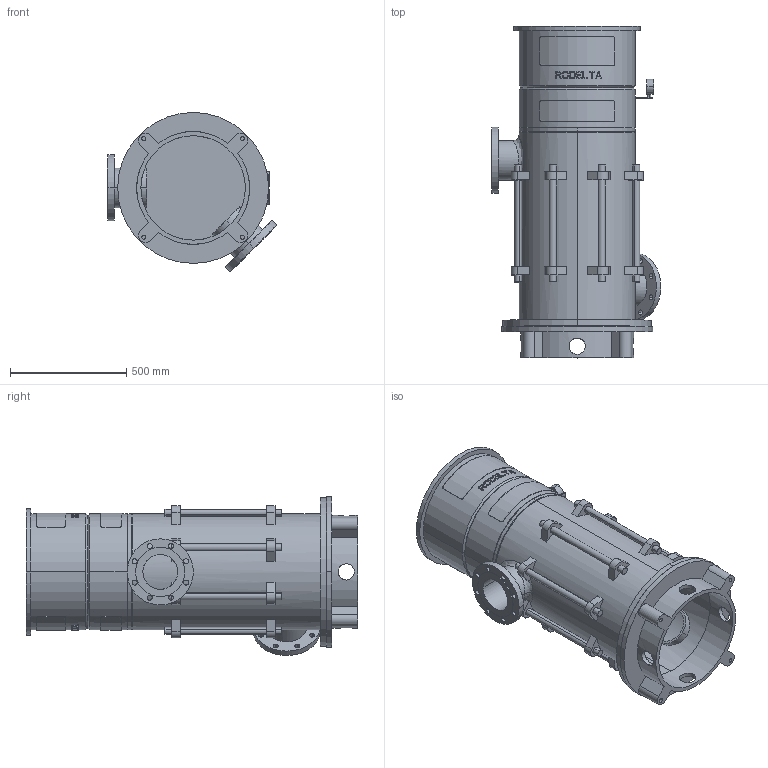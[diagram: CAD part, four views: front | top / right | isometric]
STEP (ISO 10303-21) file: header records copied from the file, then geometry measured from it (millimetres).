
FILE_DESCRIPTION((''),'2;1');
FILE_NAME('LS6_3TR_0GR_ABOVE_30KW','2023-08-15T',('Lyritlocal'),(''),'PRO/ENGINEER BY PARAMETRIC TECHNOLOGY CORPORATION, 2016360','PRO/ENGINEER BY PARAMETRIC TECHNOLOGY CORPORATION, 2016360','');
FILE_SCHEMA(('CONFIG_CONTROL_DESIGN'));
Length unit declared in the file: millimetre
Products named in the file (1): LS6_3TR_0GR_ABOVE_30KW
Bounding box: 730.27 x 1429 x 685.27 mm (x, y, z)
Volume: 48051553.7 mm3; surface area: 6574506.9 mm2
Topology: 3 solids, 7 shells, 684 faces, 1767 edges, 1174 vertices
Faces by surface type: plane 422, cylinder 242, cone 12, bspline 8
Entity records: 22629 total; most frequent: CARTESIAN_POINT 6017, ORIENTED_EDGE 3518, DIRECTION 3273, EDGE_CURVE 1767, AXIS2_PLACEMENT_3D 1237, VERTEX_POINT 1174, EDGE_LOOP 829, VECTOR 799
